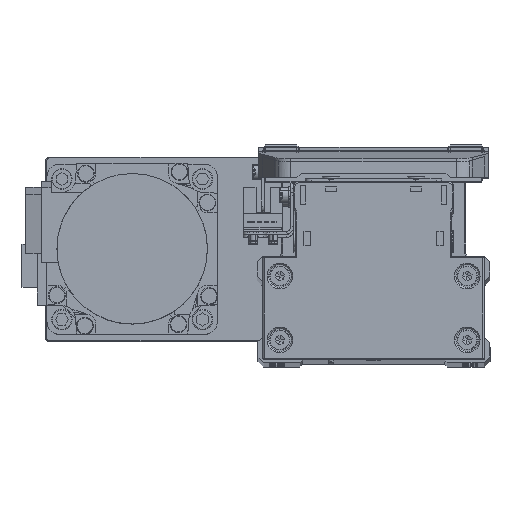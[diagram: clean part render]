
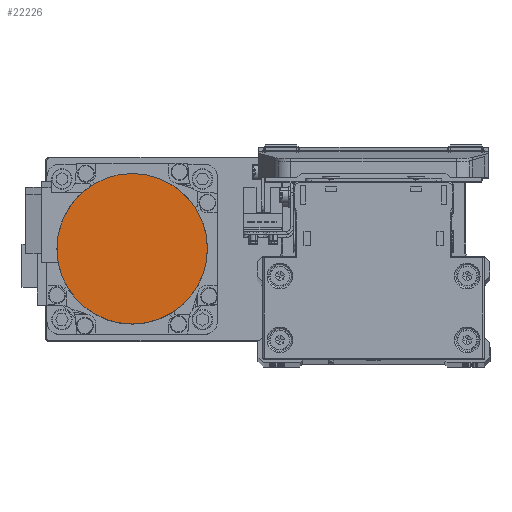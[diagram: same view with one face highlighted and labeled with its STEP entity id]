
A CAD part, top view. The second image highlights one B-rep face of the part: STEP entity #22226.
In plain terms, the highlighted planar face has unit normal (0, 0, 1) as drawn and (0, 0, -1) by its records, which use the part's own axes.
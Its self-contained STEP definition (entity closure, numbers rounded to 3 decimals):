
#252 = ORIENTED_EDGE ( 'NONE', *, *, #17892, .F. ) ;
#2738 = EDGE_LOOP ( 'NONE', ( #20587, #252 ) ) ;
#3646 = CARTESIAN_POINT ( 'NONE',  ( -26.5, 0., -109.7 ) ) ;
#4013 = AXIS2_PLACEMENT_3D ( 'NONE', #37814, #9293, #22006 ) ;
#5622 = DIRECTION ( 'NONE',  ( 1., 0., 0. ) ) ;
#8734 = PLANE ( 'NONE',  #22019 ) ;
#9293 = DIRECTION ( 'NONE',  ( 0., 0., 1. ) ) ;
#12681 = AXIS2_PLACEMENT_3D ( 'NONE', #12800, #25518, #38192 ) ;
#12800 = CARTESIAN_POINT ( 'NONE',  ( 0., 0., -109.7 ) ) ;
#17892 = EDGE_CURVE ( 'NONE', #40315, #22802, #21963, .T. ) ;
#18420 = EDGE_CURVE ( 'NONE', #22802, #40315, #30634, .T. ) ;
#20587 = ORIENTED_EDGE ( 'NONE', *, *, #18420, .F. ) ;
#21449 = CARTESIAN_POINT ( 'NONE',  ( 0., 0., -109.7 ) ) ;
#21963 = CIRCLE ( 'NONE', #4013, 26.5 ) ;
#22006 = DIRECTION ( 'NONE',  ( 1., 0., 0. ) ) ;
#22019 = AXIS2_PLACEMENT_3D ( 'NONE', #21449, #34144, #5622 ) ;
#22226 = ADVANCED_FACE ( 'NONE', ( #37242 ), #8734, .F. ) ;
#22802 = VERTEX_POINT ( 'NONE', #3646 ) ;
#25518 = DIRECTION ( 'NONE',  ( 0., 0., 1. ) ) ;
#29257 = CARTESIAN_POINT ( 'NONE',  ( 26.5, 0., -109.7 ) ) ;
#30634 = CIRCLE ( 'NONE', #12681, 26.5 ) ;
#34144 = DIRECTION ( 'NONE',  ( 0., 0., 1. ) ) ;
#37242 = FACE_OUTER_BOUND ( 'NONE', #2738, .T. ) ;
#37814 = CARTESIAN_POINT ( 'NONE',  ( 0., 0., -109.7 ) ) ;
#38192 = DIRECTION ( 'NONE',  ( -1., 0., 0. ) ) ;
#40315 = VERTEX_POINT ( 'NONE', #29257 ) ;
